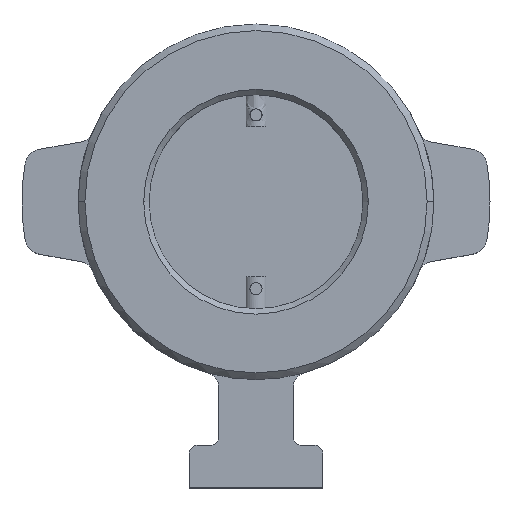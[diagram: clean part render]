
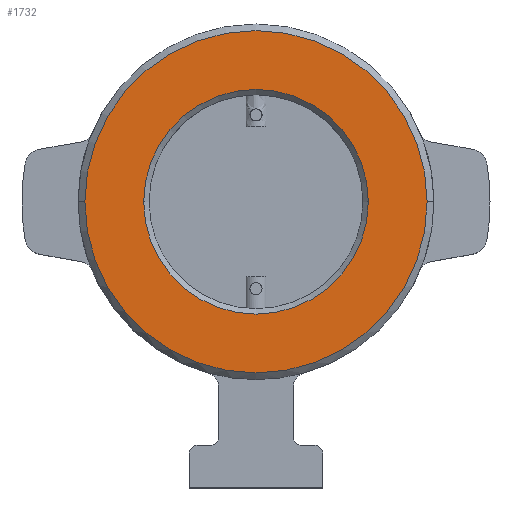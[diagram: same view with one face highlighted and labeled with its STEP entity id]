
A CAD part, top view. The second image highlights one B-rep face of the part: STEP entity #1732.
In plain terms, the highlighted planar face has unit normal (0, 0, 1).
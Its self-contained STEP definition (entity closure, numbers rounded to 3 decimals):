
#844=CARTESIAN_POINT('',(-42.0,0.,30.0));
#845=VERTEX_POINT('',#844);
#859=CARTESIAN_POINT('',(42.0,0.0,30.0));
#860=VERTEX_POINT('',#859);
#867=CARTESIAN_POINT('',(0.0,0.0,30.0));
#868=DIRECTION('',(0.0,0.0,1.0));
#869=DIRECTION('',(-1.0,0.0,0.0));
#870=AXIS2_PLACEMENT_3D('',#867,#868,#869);
#871=CIRCLE('',#870,42.0);
#872=EDGE_CURVE('',#860,#845,#871,.T.);
#926=CARTESIAN_POINT('',(-64.0,0.,30.0));
#927=VERTEX_POINT('',#926);
#961=CARTESIAN_POINT('',(64.0,0.0,30.0));
#962=VERTEX_POINT('',#961);
#969=CARTESIAN_POINT('',(0.0,0.0,30.0));
#970=DIRECTION('',(0.0,0.0,-1.0));
#971=DIRECTION('',(-1.0,0.0,0.0));
#972=AXIS2_PLACEMENT_3D('',#969,#970,#971);
#973=CIRCLE('',#972,64.0);
#974=EDGE_CURVE('',#962,#927,#973,.T.);
#1701=CARTESIAN_POINT('',(0.0,0.0,30.0));
#1702=DIRECTION('',(0.0,0.0,-1.0));
#1703=DIRECTION('',(-1.0,0.0,0.0));
#1704=AXIS2_PLACEMENT_3D('',#1701,#1702,#1703);
#1705=CIRCLE('',#1704,64.0);
#1706=EDGE_CURVE('',#927,#962,#1705,.T.);
#1713=CARTESIAN_POINT('',(0.0,0.0,30.0));
#1714=DIRECTION('',(0.0,0.0,1.0));
#1715=DIRECTION('',(-1.0,0.0,0.0));
#1716=AXIS2_PLACEMENT_3D('',#1713,#1714,#1715);
#1717=PLANE('',#1716);
#1718=ORIENTED_EDGE('',*,*,#974,.F.);
#1719=ORIENTED_EDGE('',*,*,#1706,.F.);
#1720=EDGE_LOOP('',(#1718,#1719));
#1721=FACE_OUTER_BOUND('',#1720,.T.);
#1722=ORIENTED_EDGE('',*,*,#872,.F.);
#1723=CARTESIAN_POINT('',(0.0,0.0,30.0));
#1724=DIRECTION('',(0.0,0.0,1.0));
#1725=DIRECTION('',(-1.0,0.0,0.0));
#1726=AXIS2_PLACEMENT_3D('',#1723,#1724,#1725);
#1727=CIRCLE('',#1726,42.0);
#1728=EDGE_CURVE('',#845,#860,#1727,.T.);
#1729=ORIENTED_EDGE('',*,*,#1728,.F.);
#1730=EDGE_LOOP('',(#1722,#1729));
#1731=FACE_BOUND('',#1730,.T.);
#1732=ADVANCED_FACE('',(#1721,#1731),#1717,.T.);
